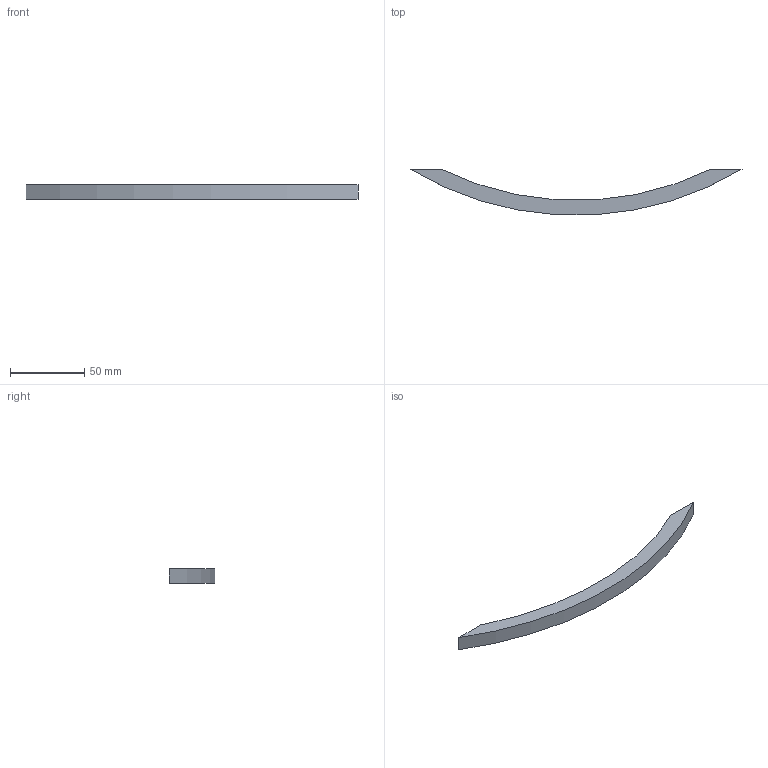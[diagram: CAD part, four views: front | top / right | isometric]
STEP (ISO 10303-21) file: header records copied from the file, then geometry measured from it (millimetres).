
FILE_DESCRIPTION( ( 'STEP AP214' ), '1' );
FILE_NAME( 'C:/Users/swati/Desktop/guarani/9208048/9208048.stp', ' ', ( ' ' ), ( ' ' ), 'PSStep 15.0.47', 'PARTsolutions', ' ' );
FILE_SCHEMA( ( 'AUTOMOTIVE_DESIGN { 1 0 10303 214 1 1 1 1 }' ) );
Length unit declared in the file: millimetre
Products named in the file (2): 95 ; _
Assembly tree (1 placements, depth 2):
  95 
    _
Bounding box: 223 x 30.61 x 10 mm (x, y, z)
Volume: 21032.6 mm3; surface area: 8994.7 mm2
Topology: 1 solids, 1 shells, 10 faces, 18 edges, 12 vertices
Faces by surface type: plane 6, cylinder 4
Full cylindrical faces by diameter (mm): 4 x2
Entity records: 358 total; most frequent: DIRECTION 48, CARTESIAN_POINT 40, ORIENTED_EDGE 32, AXIS2_PLACEMENT_3D 20, EDGE_CURVE 16, EDGE_LOOP 14, FACE_OUTER_BOUND 12, VERTEX_POINT 12
